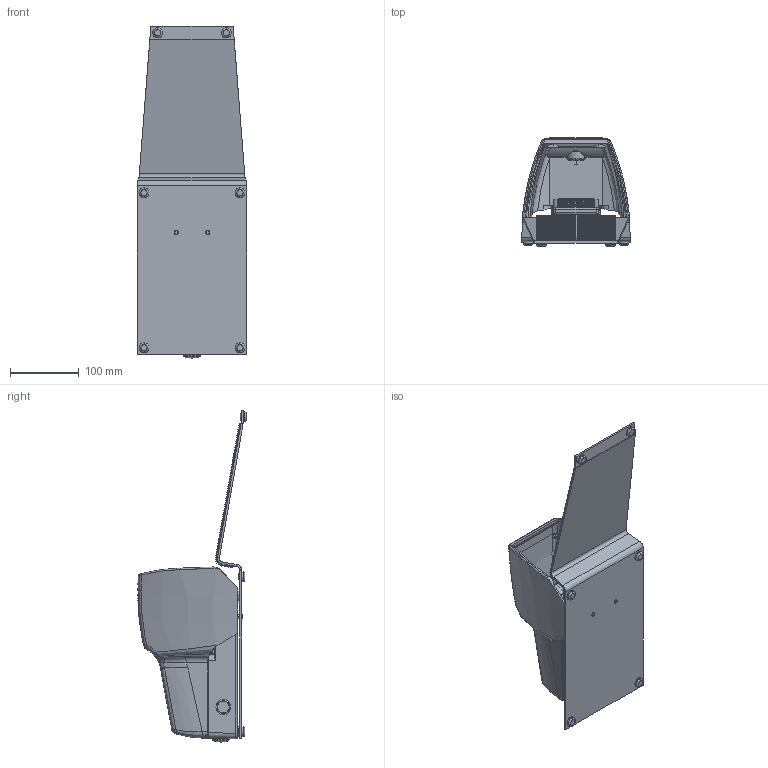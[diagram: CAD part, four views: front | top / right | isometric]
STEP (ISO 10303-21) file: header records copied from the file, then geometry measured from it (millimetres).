
FILE_DESCRIPTION((''),'2;1');
FILE_NAME('6161700091','2014-07-29T',('Yvonne.Storm'),(''),'PRO/ENGINEER BY PARAMETRIC TECHNOLOGY CORPORATION, 2012360','PRO/ENGINEER BY PARAMETRIC TECHNOLOGY CORPORATION, 2012360','');
FILE_SCHEMA(('AUTOMOTIVE_DESIGN { 1 0 10303 214 1 1 1 1 }'));
Products named in the file (1): 6161700091
Bounding box: 160 x 158.28 x 484.19 mm (x, y, z)
Volume: 1348037.7 mm3; surface area: 394544.1 mm2
Topology: 2 solids, 8 shells, 3424 faces, 8403 edges, 5282 vertices
Faces by surface type: plane 2079, cylinder 621, bspline 313, torus 237, cone 104, sphere 64, extrusion 6
Entity records: 178833 total; most frequent: CARTESIAN_POINT 47570, ORIENTED_EDGE 16798, DIRECTION 15114, PRESENTATION_STYLE_ASSIGNMENT 11805, STYLED_ITEM 8407, CURVE_STYLE 8405, EDGE_CURVE 8399, VECTOR 5592
